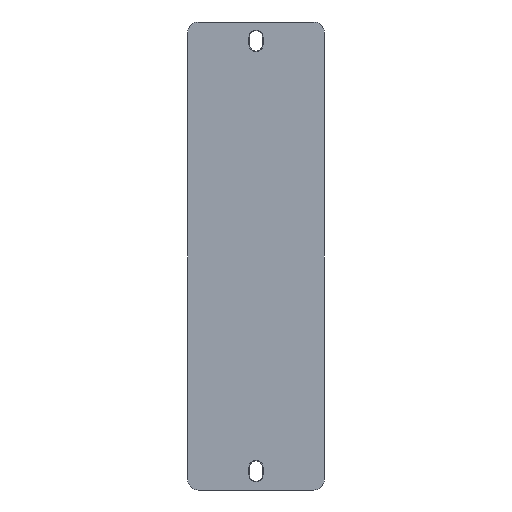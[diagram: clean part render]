
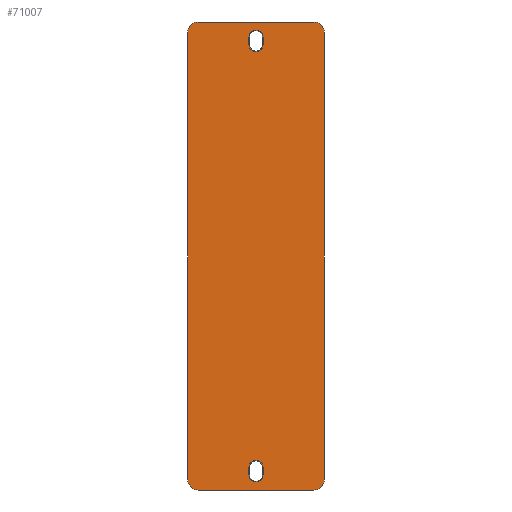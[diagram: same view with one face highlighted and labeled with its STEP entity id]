
A CAD part, front view. The second image highlights one B-rep face of the part: STEP entity #71007.
In plain terms, the highlighted planar face has unit normal (0, -1, 0).
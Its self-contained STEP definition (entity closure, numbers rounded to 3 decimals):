
#15722=CARTESIAN_POINT('',(27.5,12.,-163.7));
#15723=DIRECTION('',(0.,-1.,0.));
#15724=DIRECTION('',(0.,0.,-1.));
#15725=AXIS2_PLACEMENT_3D('',#15722,#15723,#15724);
#15727=DIRECTION('',(1.,0.,0.));
#15728=VECTOR('',#15727,55.);
#15729=CARTESIAN_POINT('',(-27.5,12.,-168.7));
#15730=LINE('',#15729,#15728);
#15731=CARTESIAN_POINT('',(-27.5,12.,-163.7));
#15732=DIRECTION('',(0.,-1.,0.));
#15733=DIRECTION('',(-1.,0.,0.));
#15734=AXIS2_PLACEMENT_3D('',#15731,#15732,#15733);
#15736=DIRECTION('',(0.,0.,-1.));
#15737=VECTOR('',#15736,212.4);
#15738=CARTESIAN_POINT('',(-32.5,12.,48.7));
#15739=LINE('',#15738,#15737);
#15740=CARTESIAN_POINT('',(-27.5,12.,48.7));
#15741=DIRECTION('',(0.,-1.,0.));
#15742=DIRECTION('',(0.,0.,1.));
#15743=AXIS2_PLACEMENT_3D('',#15740,#15741,#15742);
#15745=DIRECTION('',(-1.,0.,0.));
#15746=VECTOR('',#15745,55.);
#15747=CARTESIAN_POINT('',(27.5,12.,53.7));
#15748=LINE('',#15747,#15746);
#15749=CARTESIAN_POINT('',(27.5,12.,48.7));
#15750=DIRECTION('',(0.,-1.,0.));
#15751=DIRECTION('',(1.,0.,0.));
#15752=AXIS2_PLACEMENT_3D('',#15749,#15750,#15751);
#15754=DIRECTION('',(0.,0.,1.));
#15755=VECTOR('',#15754,212.4);
#15756=CARTESIAN_POINT('',(32.5,12.,-163.7));
#15757=LINE('',#15756,#15755);
#15758=CARTESIAN_POINT('',(0.,12.,43.));
#15759=DIRECTION('',(0.,1.,0.));
#15760=DIRECTION('',(1.,0.,0.));
#15761=AXIS2_PLACEMENT_3D('',#15758,#15759,#15760);
#15763=DIRECTION('',(0.,0.,-1.));
#15764=VECTOR('',#15763,3.5);
#15765=CARTESIAN_POINT('',(3.349,12.,46.5));
#15766=LINE('',#15765,#15764);
#15767=CARTESIAN_POINT('',(0.,12.,46.5));
#15768=DIRECTION('',(0.,1.,0.));
#15769=DIRECTION('',(0.,0.,1.));
#15770=AXIS2_PLACEMENT_3D('',#15767,#15768,#15769);
#15772=CARTESIAN_POINT('',(0.,12.,46.5));
#15773=DIRECTION('',(0.,1.,0.));
#15774=DIRECTION('',(-1.,0.,0.));
#15775=AXIS2_PLACEMENT_3D('',#15772,#15773,#15774);
#15777=DIRECTION('',(0.,0.,1.));
#15778=VECTOR('',#15777,3.5);
#15779=CARTESIAN_POINT('',(-3.349,12.,43.));
#15780=LINE('',#15779,#15778);
#15781=CARTESIAN_POINT('',(0.,12.,43.));
#15782=DIRECTION('',(0.,1.,0.));
#15783=DIRECTION('',(0.,0.,-1.));
#15784=AXIS2_PLACEMENT_3D('',#15781,#15782,#15783);
#15786=DIRECTION('',(0.,0.,-1.));
#15787=VECTOR('',#15786,3.5);
#15788=CARTESIAN_POINT('',(3.349,12.,
-158.));
#15789=LINE('',#15788,#15787);
#15790=CARTESIAN_POINT('',(0.,12.,-158.));
#15791=DIRECTION('',(0.,1.,0.));
#15792=DIRECTION('',(0.,0.,1.));
#15793=AXIS2_PLACEMENT_3D('',#15790,#15791,#15792);
#15795=CARTESIAN_POINT('',(0.,12.,-158.));
#15796=DIRECTION('',(0.,1.,0.));
#15797=DIRECTION('',(-1.,0.,0.));
#15798=AXIS2_PLACEMENT_3D('',#15795,#15796,#15797);
#15800=DIRECTION('',(0.,0.,1.));
#15801=VECTOR('',#15800,3.5);
#15802=CARTESIAN_POINT('',(-3.349,12.,
-161.5));
#15803=LINE('',#15802,#15801);
#15804=CARTESIAN_POINT('',(0.,12.,-161.5));
#15805=DIRECTION('',(0.,1.,0.));
#15806=DIRECTION('',(0.,0.,-1.));
#15807=AXIS2_PLACEMENT_3D('',#15804,#15805,#15806);
#15809=CARTESIAN_POINT('',(0.,12.,-161.5));
#15810=DIRECTION('',(0.,1.,0.));
#15811=DIRECTION('',(1.,0.,0.));
#15812=AXIS2_PLACEMENT_3D('',#15809,#15810,#15811);
#43010=CARTESIAN_POINT('',(3.349,12.,-161.5));
#43012=VERTEX_POINT('',#43010);
#44334=CARTESIAN_POINT('',(-3.349,12.,
-158.));
#44336=VERTEX_POINT('',#44334);
#44802=CARTESIAN_POINT('',(-3.349,12.,
-161.5));
#44803=VERTEX_POINT('',#44802);
#44940=CARTESIAN_POINT('',(-3.349,12.,43.));
#44941=CARTESIAN_POINT('',(-3.349,12.,
46.5));
#44942=VERTEX_POINT('',#44940);
#44943=VERTEX_POINT('',#44941);
#45179=CARTESIAN_POINT('',(3.349,12.,
-158.));
#45180=VERTEX_POINT('',#45179);
#46165=CARTESIAN_POINT('',(0.,12.,
49.849));
#46166=VERTEX_POINT('',#46165);
#48130=CARTESIAN_POINT('',(3.349,12.,46.5));
#48131=CARTESIAN_POINT('',(3.349,12.,43.));
#48132=VERTEX_POINT('',#48130);
#48133=VERTEX_POINT('',#48131);
#48460=CARTESIAN_POINT('',(27.5,12.,-168.7));
#48461=CARTESIAN_POINT('',(32.5,12.,-163.7));
#48462=VERTEX_POINT('',#48460);
#48463=VERTEX_POINT('',#48461);
#48579=CARTESIAN_POINT('',(0.,12.,
39.651));
#48580=VERTEX_POINT('',#48579);
#48809=CARTESIAN_POINT('',(32.5,12.,48.7));
#48810=VERTEX_POINT('',#48809);
#49200=CARTESIAN_POINT('',(0.,12.,
-154.651));
#49201=VERTEX_POINT('',#49200);
#49359=CARTESIAN_POINT('',(-27.5,12.,-168.7));
#49361=VERTEX_POINT('',#49359);
#50966=CARTESIAN_POINT('',(27.5,12.,53.7));
#50967=VERTEX_POINT('',#50966);
#51082=CARTESIAN_POINT('',(-27.5,12.,53.7));
#51083=VERTEX_POINT('',#51082);
#51294=CARTESIAN_POINT('',(-32.5,12.,48.7));
#51295=VERTEX_POINT('',#51294);
#51766=CARTESIAN_POINT('',(-32.5,12.,-163.7));
#51767=VERTEX_POINT('',#51766);
#52000=CARTESIAN_POINT('',(0.,12.,
-164.849));
#52001=VERTEX_POINT('',#52000);
#70962=CARTESIAN_POINT('',(0.,12.,-57.5));
#70963=DIRECTION('',(0.,1.,0.));
#70964=DIRECTION('',(0.,0.,-1.));
#70965=AXIS2_PLACEMENT_3D('',#70962,#70963,#70964);
#70966=PLANE('',#70965);
#70968=ORIENTED_EDGE('',*,*,#70967,.F.);
#70970=ORIENTED_EDGE('',*,*,#70969,.F.);
#70972=ORIENTED_EDGE('',*,*,#70971,.F.);
#70974=ORIENTED_EDGE('',*,*,#70973,.F.);
#70976=ORIENTED_EDGE('',*,*,#70975,.F.);
#70978=ORIENTED_EDGE('',*,*,#70977,.F.);
#70980=ORIENTED_EDGE('',*,*,#70979,.F.);
#70982=ORIENTED_EDGE('',*,*,#70981,.F.);
#70983=EDGE_LOOP('',(#70968,#70970,#70972,#70974,#70976,#70978,#70980,#70982));
#70984=FACE_OUTER_BOUND('',#70983,.F.);
#70986=ORIENTED_EDGE('',*,*,#70985,.F.);
#70988=ORIENTED_EDGE('',*,*,#70987,.F.);
#70990=ORIENTED_EDGE('',*,*,#70989,.F.);
#70992=ORIENTED_EDGE('',*,*,#70991,.F.);
#70994=ORIENTED_EDGE('',*,*,#70993,.F.);
#70996=ORIENTED_EDGE('',*,*,#70995,.F.);
#70997=EDGE_LOOP('',(#70986,#70988,#70990,#70992,#70994,#70996));
#70998=FACE_BOUND('',#70997,.F.);
#70999=ORIENTED_EDGE('',*,*,#70944,.F.);
#71000=ORIENTED_EDGE('',*,*,#70955,.F.);
#71001=ORIENTED_EDGE('',*,*,#70856,.F.);
#71002=ORIENTED_EDGE('',*,*,#70872,.F.);
#71003=ORIENTED_EDGE('',*,*,#70888,.F.);
#71004=ORIENTED_EDGE('',*,*,#70886,.F.);
#71005=EDGE_LOOP('',(#70999,#71000,#71001,#71002,#71003,#71004));
#71006=FACE_BOUND('',#71005,.F.);
#71007=ADVANCED_FACE('',(#70984,#70998,#71006),#70966,.F.);
#15726=CIRCLE('',#15725,5.);
#15735=CIRCLE('',#15734,5.);
#15744=CIRCLE('',#15743,5.);
#15753=CIRCLE('',#15752,5.);
#15762=CIRCLE('',#15761,3.349);
#15771=CIRCLE('',#15770,3.349);
#15776=CIRCLE('',#15775,3.349);
#15785=CIRCLE('',#15784,3.349);
#15794=CIRCLE('',#15793,3.349);
#15799=CIRCLE('',#15798,3.349);
#15808=CIRCLE('',#15807,3.349);
#15813=CIRCLE('',#15812,3.349);
#70856=EDGE_CURVE('',#44336,#49201,#15799,.T.);
#70872=EDGE_CURVE('',#44803,#44336,#15803,.T.);
#70886=EDGE_CURVE('',#43012,#52001,#15813,.T.);
#70888=EDGE_CURVE('',#52001,#44803,#15808,.T.);
#70944=EDGE_CURVE('',#45180,#43012,#15789,.T.);
#70955=EDGE_CURVE('',#49201,#45180,#15794,.T.);
#70967=EDGE_CURVE('',#48462,#48463,#15726,.T.);
#70969=EDGE_CURVE('',#49361,#48462,#15730,.T.);
#70971=EDGE_CURVE('',#51767,#49361,#15735,.T.);
#70973=EDGE_CURVE('',#51295,#51767,#15739,.T.);
#70975=EDGE_CURVE('',#51083,#51295,#15744,.T.);
#70977=EDGE_CURVE('',#50967,#51083,#15748,.T.);
#70979=EDGE_CURVE('',#48810,#50967,#15753,.T.);
#70981=EDGE_CURVE('',#48463,#48810,#15757,.T.);
#70985=EDGE_CURVE('',#48133,#48580,#15762,.T.);
#70987=EDGE_CURVE('',#48132,#48133,#15766,.T.);
#70989=EDGE_CURVE('',#46166,#48132,#15771,.T.);
#70991=EDGE_CURVE('',#44943,#46166,#15776,.T.);
#70993=EDGE_CURVE('',#44942,#44943,#15780,.T.);
#70995=EDGE_CURVE('',#48580,#44942,#15785,.T.);
